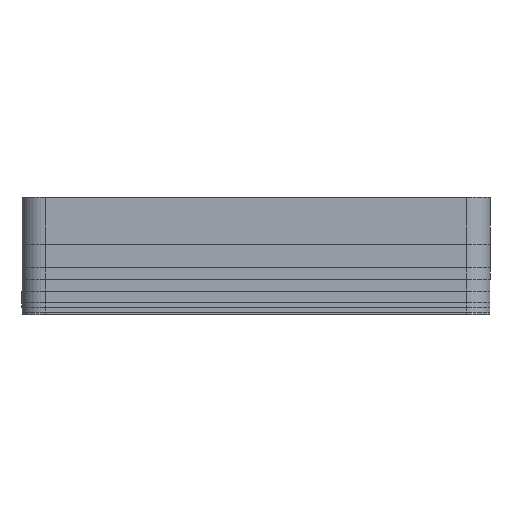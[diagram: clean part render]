
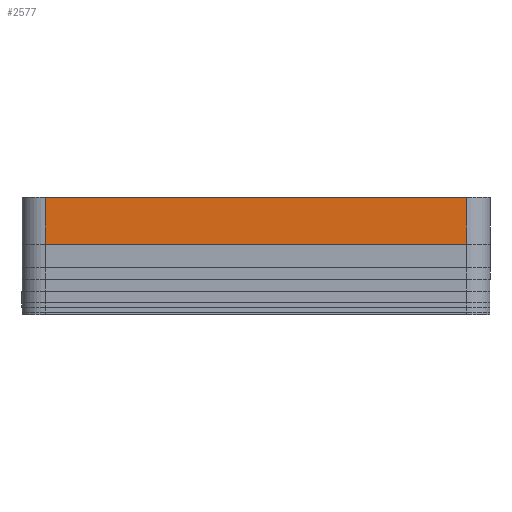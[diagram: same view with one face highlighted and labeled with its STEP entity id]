
A CAD part, left-side view. The second image highlights one B-rep face of the part: STEP entity #2577.
In plain terms, the highlighted planar face has unit normal (-1, 0, 0).
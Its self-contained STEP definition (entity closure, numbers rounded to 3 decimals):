
#160 = VECTOR ( 'NONE', #5280, 1000. ) ;
#231 = ORIENTED_EDGE ( 'NONE', *, *, #1137, .T. ) ;
#284 = VECTOR ( 'NONE', #4063, 1000. ) ;
#431 = VERTEX_POINT ( 'NONE', #3034 ) ;
#481 = VERTEX_POINT ( 'NONE', #1856 ) ;
#540 = LINE ( 'NONE', #609, #2630 ) ;
#609 = CARTESIAN_POINT ( 'NONE',  ( -22.5, 20., 0. ) ) ;
#671 = EDGE_CURVE ( 'NONE', #3220, #431, #4638, .T. ) ;
#1038 = DIRECTION ( 'NONE',  ( 0., -1., 0. ) ) ;
#1082 = LINE ( 'NONE', #2106, #2046 ) ;
#1104 = AXIS2_PLACEMENT_3D ( 'NONE', #3723, #2462, #1653 ) ;
#1137 = EDGE_CURVE ( 'NONE', #481, #4904, #4778, .T. ) ;
#1385 = CARTESIAN_POINT ( 'NONE',  ( -22.5, 1., 0. ) ) ;
#1594 = CARTESIAN_POINT ( 'NONE',  ( -22.5, 19., 0. ) ) ;
#1653 = DIRECTION ( 'NONE',  ( 0., 1., 0. ) ) ;
#1856 = CARTESIAN_POINT ( 'NONE',  ( -22.5, 19., 2. ) ) ;
#2046 = VECTOR ( 'NONE', #3353, 1000. ) ;
#2106 = CARTESIAN_POINT ( 'NONE',  ( -22.5, 20., 2. ) ) ;
#2462 = DIRECTION ( 'NONE',  ( 1., 0., 0. ) ) ;
#2577 = ADVANCED_FACE ( 'NONE', ( #5124 ), #4160, .F. ) ;
#2630 = VECTOR ( 'NONE', #1038, 1000. ) ;
#2818 = ORIENTED_EDGE ( 'NONE', *, *, #4445, .F. ) ;
#3034 = CARTESIAN_POINT ( 'NONE',  ( -22.5, 1., 2. ) ) ;
#3220 = VERTEX_POINT ( 'NONE', #1385 ) ;
#3251 = EDGE_LOOP ( 'NONE', ( #5249, #4931, #2818, #231 ) ) ;
#3353 = DIRECTION ( 'NONE',  ( 0., -1., 0. ) ) ;
#3624 = CARTESIAN_POINT ( 'NONE',  ( -22.5, 19., 2. ) ) ;
#3723 = CARTESIAN_POINT ( 'NONE',  ( -22.5, 20., 2. ) ) ;
#3970 = CARTESIAN_POINT ( 'NONE',  ( -22.5, 1., 2. ) ) ;
#4063 = DIRECTION ( 'NONE',  ( 0., 0., -1. ) ) ;
#4089 = EDGE_CURVE ( 'NONE', #4904, #3220, #540, .T. ) ;
#4160 = PLANE ( 'NONE',  #1104 ) ;
#4445 = EDGE_CURVE ( 'NONE', #481, #431, #1082, .T. ) ;
#4638 = LINE ( 'NONE', #3970, #160 ) ;
#4778 = LINE ( 'NONE', #3624, #284 ) ;
#4904 = VERTEX_POINT ( 'NONE', #1594 ) ;
#4931 = ORIENTED_EDGE ( 'NONE', *, *, #671, .T. ) ;
#5124 = FACE_OUTER_BOUND ( 'NONE', #3251, .T. ) ;
#5249 = ORIENTED_EDGE ( 'NONE', *, *, #4089, .T. ) ;
#5280 = DIRECTION ( 'NONE',  ( 0., 0., 1. ) ) ;
